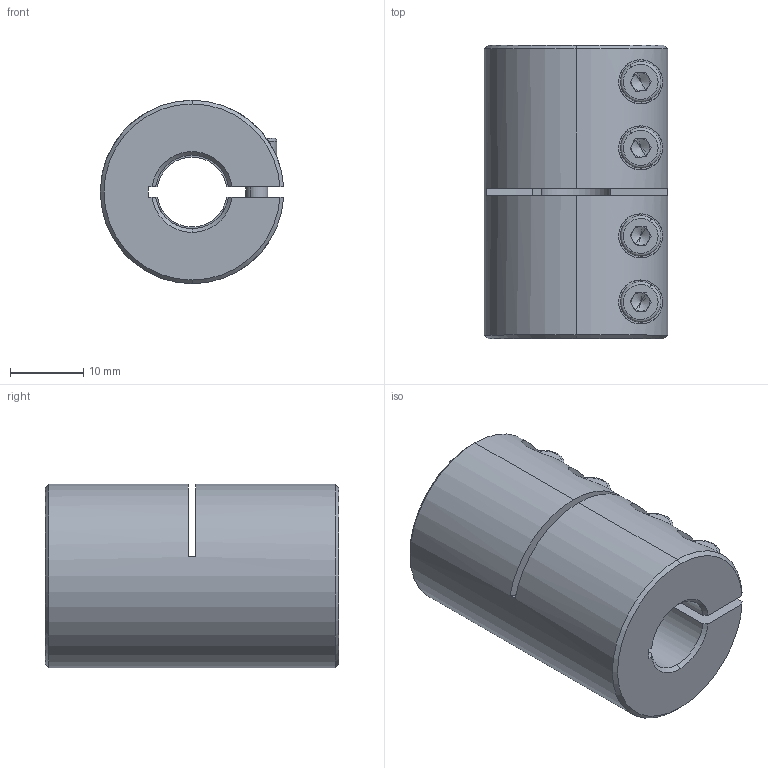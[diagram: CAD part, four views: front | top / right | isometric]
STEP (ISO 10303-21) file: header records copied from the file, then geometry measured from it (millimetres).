
FILE_DESCRIPTION (( 'STEP AP214' ), '1' );
FILE_NAME ('LL-B-D25L40-9.525-10½¨Ä£.STEP', '2022-07-21T05:18:36', ( '' ), ( '' ), 'SwSTEP 2.0', 'SolidWorks 2022', '' );
FILE_SCHEMA (( 'AUTOMOTIVE_DESIGN' ));
Length unit declared in the file: millimetre
Products named in the file (1): LL-B-D25L40-9.525-10膘耀
Bounding box: 24.98 x 40 x 25 mm (x, y, z)
Volume: 15586.5 mm3; surface area: 7119.5 mm2
Topology: 1 solids, 1 shells, 178 faces, 455 edges, 287 vertices
Faces by surface type: plane 85, cylinder 65, cone 20, torus 8
Entity records: 5838 total; most frequent: CARTESIAN_POINT 1437, DIRECTION 946, ORIENTED_EDGE 894, EDGE_CURVE 447, AXIS2_PLACEMENT_3D 364, VERTEX_POINT 287, VECTOR 218, LINE 218
